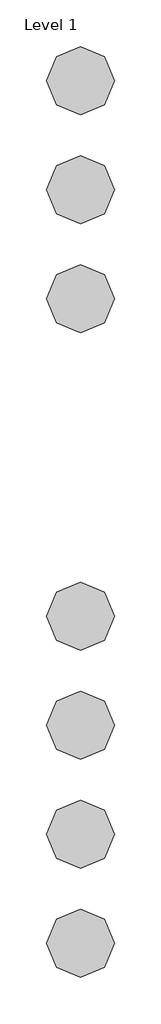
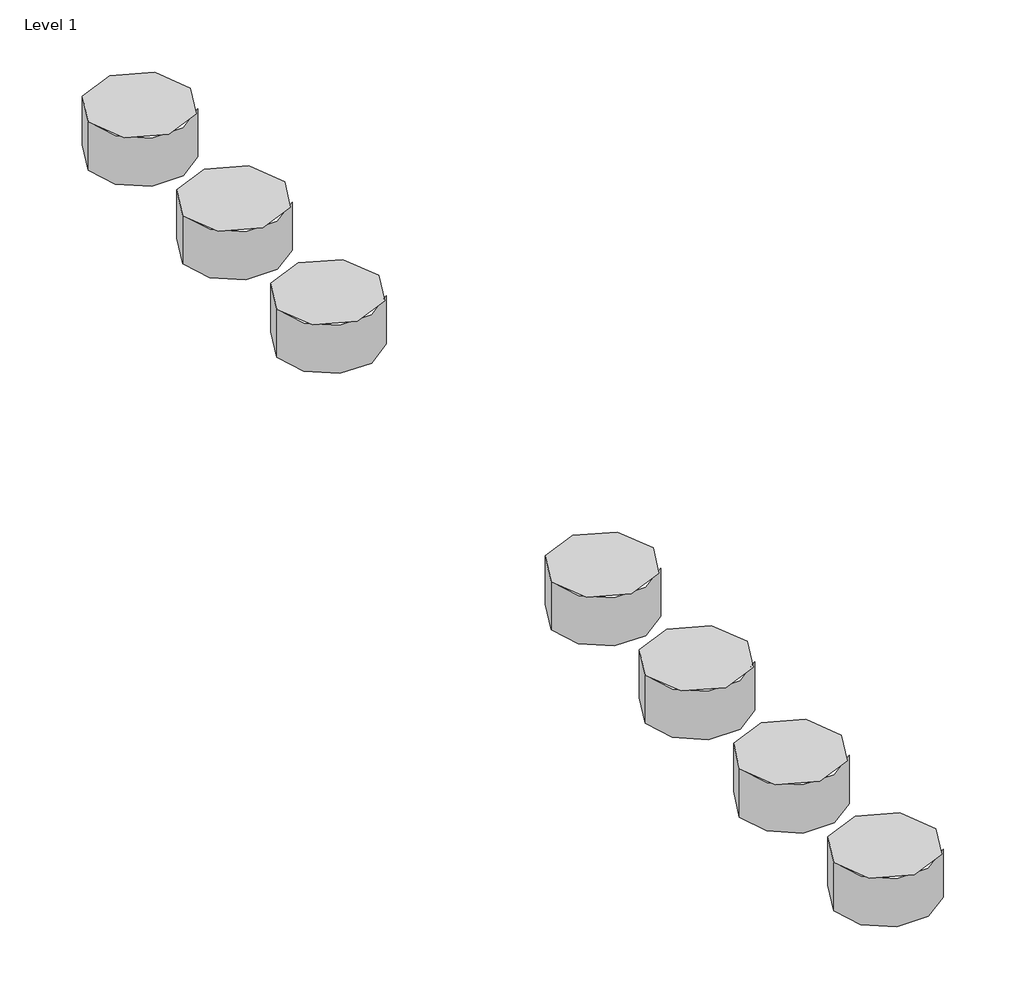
# One storey, incomplete: 7 proxies.
"""IFC4 building model written with IfcOpenShell, lengths in millimetres."""

from ifc_helpers import new_model, si_unit, origin, place, context, project, spatial, transform, mapped, element, save
from components import materialmodel_materialmodel_02e69005

model = new_model("IFC4")

# Units and contexts
model_context = context("Model", 3, world=origin())
ifc_project = project(units=[si_unit("LENGTHUNIT", "METRE", prefix="MILLI")], contexts=[model_context])

# Site, building, storey
site = spatial("IfcSite", under=ifc_project)
building = spatial("IfcBuilding", under=site)
storey = spatial("IfcBuildingStorey", under=building, Name="Level 1", Elevation=0.0)

# Proxies
placement = place(None, origin())
materialmodel_materialmodel_shape = materialmodel_materialmodel_02e69005(model_context)
element("IfcBuildingElementProxy", 1, Name="MaterialModel : MaterialModel", ObjectType="MaterialModel : MaterialModel", at=placement, inside=storey, context=model_context, shape_type="MappedRepresentation", body=[
    mapped(materialmodel_materialmodel_shape, transform((-5472.1657896, 3863.699322, 0.0), x_axis=(1.0, 0.0, 0.0), y_axis=(0.0, 1.0, 0.0), z_axis=(0.0, 0.0, 1.0))),
])
element("IfcBuildingElementProxy", 2, Name="MaterialModel : MaterialModel", ObjectType="MaterialModel : MaterialModel", at=placement, inside=storey, context=model_context, shape_type="MappedRepresentation", body=[
    mapped(materialmodel_materialmodel_shape, transform((-5472.1657896, 3703.699322, 0.0), x_axis=(1.0, 0.0, 0.0), y_axis=(0.0, 1.0, 0.0), z_axis=(0.0, 0.0, 1.0))),
])
element("IfcBuildingElementProxy", 3, Name="MaterialModel : MaterialModel", ObjectType="MaterialModel : MaterialModel", at=placement, inside=storey, context=model_context, shape_type="MappedRepresentation", body=[
    mapped(materialmodel_materialmodel_shape, transform((-5472.1657896, 3543.699322, 0.0), x_axis=(1.0, 0.0, 0.0), y_axis=(0.0, 1.0, 0.0), z_axis=(0.0, 0.0, 1.0))),
])
element("IfcBuildingElementProxy", 4, Name="MaterialModel : MaterialModel", ObjectType="MaterialModel : MaterialModel", at=placement, inside=storey, context=model_context, shape_type="MappedRepresentation", body=[
    mapped(materialmodel_materialmodel_shape, transform((-5472.1657896, 3383.699322, 0.0), x_axis=(1.0, 0.0, 0.0), y_axis=(0.0, 1.0, 0.0), z_axis=(0.0, 0.0, 1.0))),
])
element("IfcBuildingElementProxy", 5, Name="MaterialModel : MaterialModel", ObjectType="MaterialModel : MaterialModel", at=placement, inside=storey, context=model_context, shape_type="MappedRepresentation", body=[
    mapped(materialmodel_materialmodel_shape, transform((-5472.1657896, 4649.5048486, 0.0), x_axis=(1.0, 0.0, 0.0), y_axis=(0.0, 1.0, 0.0), z_axis=(0.0, 0.0, 1.0))),
])
element("IfcBuildingElementProxy", 6, Name="MaterialModel : MaterialModel", ObjectType="MaterialModel : MaterialModel", at=placement, inside=storey, context=model_context, shape_type="MappedRepresentation", body=[
    mapped(materialmodel_materialmodel_shape, transform((-5472.1657896, 4489.5048486, 0.0), x_axis=(1.0, 0.0, 0.0), y_axis=(0.0, 1.0, 0.0), z_axis=(0.0, 0.0, 1.0))),
])
element("IfcBuildingElementProxy", 7, Name="MaterialModel : MaterialModel", ObjectType="MaterialModel : MaterialModel", at=placement, inside=storey, context=model_context, shape_type="MappedRepresentation", body=[
    mapped(materialmodel_materialmodel_shape, transform((-5472.1657896, 4329.5048486, 0.0), x_axis=(1.0, 0.0, 0.0), y_axis=(0.0, 1.0, 0.0), z_axis=(0.0, 0.0, 1.0))),
])

save(model, "model.ifc")
